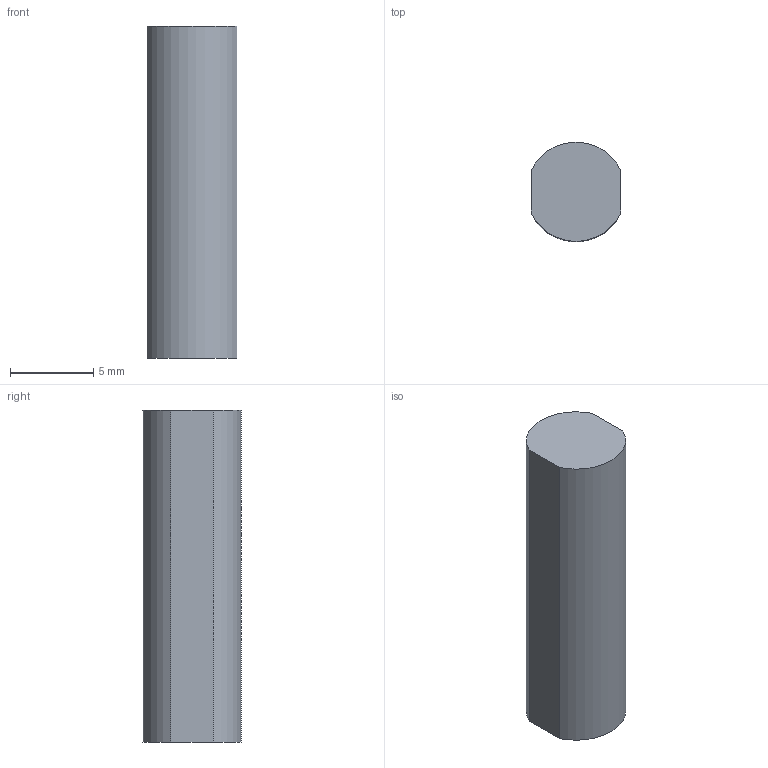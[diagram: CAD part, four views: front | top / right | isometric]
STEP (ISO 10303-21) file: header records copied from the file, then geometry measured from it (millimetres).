
FILE_DESCRIPTION(('Open CASCADE Model'),'2;1');
FILE_NAME('Open CASCADE Shape Model','2026-10-28T05:16:18',('Author'),( 'Open CASCADE'),'Open CASCADE STEP processor 7.8','Open CASCADE 7.8' ,'Unknown');
FILE_SCHEMA(('AUTOMOTIVE_DESIGN { 1 0 10303 214 1 1 1 1 }'));
Length unit declared in the file: millimetre
Products named in the file (1): Open CASCADE STEP translator 7.8 8
Bounding box: 5.4 x 5.96 x 20 mm (x, y, z)
Volume: 541.7 mm3; surface area: 426.4 mm2
Topology: 1 solids, 1 shells, 6 faces, 12 edges, 8 vertices
Faces by surface type: plane 4, cylinder 2
Entity records: 318 total; most frequent: CARTESIAN_POINT 59, DIRECTION 46, ORIENTED_EDGE 24, PCURVE 24, DEFINITIONAL_REPRESENTATION 24, LINE 20, VECTOR 20, EDGE_CURVE 12
